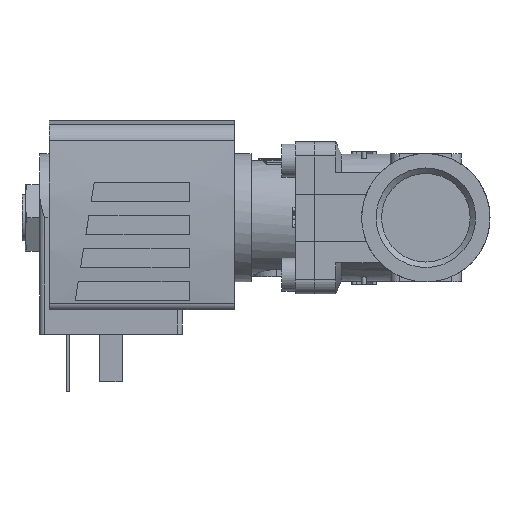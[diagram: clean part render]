
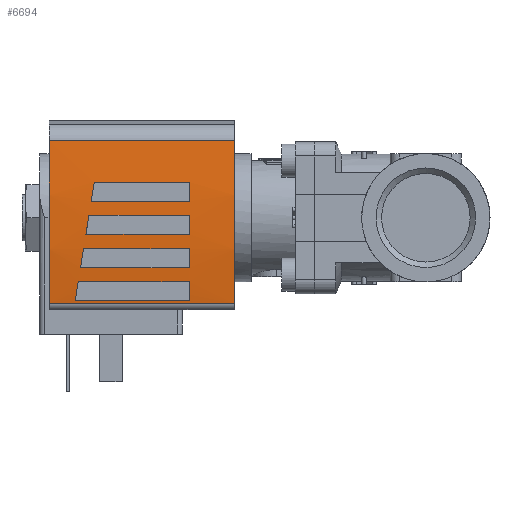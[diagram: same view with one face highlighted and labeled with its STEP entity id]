
A CAD part, left-side view. The second image highlights one B-rep face of the part: STEP entity #6694.
In plain terms, the highlighted cylindrical face has radius 130 mm (diameter 260 mm), a partial arc.
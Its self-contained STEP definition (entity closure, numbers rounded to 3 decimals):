
#89=ELLIPSE('',#7242,131.653,130.);
#90=ELLIPSE('',#7244,131.653,130.);
#91=ELLIPSE('',#7247,131.653,130.);
#92=ELLIPSE('',#7249,131.653,130.);
#228=CYLINDRICAL_SURFACE('',#7241,130.);
#609=LINE('',#10461,#1101);
#611=LINE('',#10481,#1103);
#612=LINE('',#10485,#1104);
#613=LINE('',#10486,#1105);
#614=LINE('',#10491,#1106);
#615=LINE('',#10496,#1107);
#616=LINE('',#10500,#1108);
#617=LINE('',#10504,#1109);
#618=LINE('',#10508,#1110);
#619=LINE('',#10512,#1111);
#1101=VECTOR('',#8607,1000.);
#1103=VECTOR('',#8629,1000.);
#1104=VECTOR('',#8632,1000.);
#1105=VECTOR('',#8633,1000.);
#1106=VECTOR('',#8636,1000.);
#1107=VECTOR('',#8641,1000.);
#1108=VECTOR('',#8644,1000.);
#1109=VECTOR('',#8647,1000.);
#1110=VECTOR('',#8650,1000.);
#1111=VECTOR('',#8653,1000.);
#2431=ORIENTED_EDGE('',*,*,#3441,.F.);
#2432=ORIENTED_EDGE('',*,*,#3442,.F.);
#2433=ORIENTED_EDGE('',*,*,#3443,.F.);
#2434=ORIENTED_EDGE('',*,*,#3444,.F.);
#2435=ORIENTED_EDGE('',*,*,#3445,.F.);
#2436=ORIENTED_EDGE('',*,*,#3446,.F.);
#2437=ORIENTED_EDGE('',*,*,#3447,.F.);
#2438=ORIENTED_EDGE('',*,*,#3448,.F.);
#2439=ORIENTED_EDGE('',*,*,#3449,.T.);
#2440=ORIENTED_EDGE('',*,*,#3450,.F.);
#2441=ORIENTED_EDGE('',*,*,#3435,.F.);
#2442=ORIENTED_EDGE('',*,*,#3432,.T.);
#2443=ORIENTED_EDGE('',*,*,#3451,.F.);
#2444=ORIENTED_EDGE('',*,*,#3452,.F.);
#2445=ORIENTED_EDGE('',*,*,#3453,.F.);
#2446=ORIENTED_EDGE('',*,*,#3454,.F.);
#2447=ORIENTED_EDGE('',*,*,#3455,.F.);
#2448=ORIENTED_EDGE('',*,*,#3456,.F.);
#2449=ORIENTED_EDGE('',*,*,#3457,.F.);
#2450=ORIENTED_EDGE('',*,*,#3458,.F.);
#3432=EDGE_CURVE('',#4036,#4035,#609,.T.);
#3435=EDGE_CURVE('',#4036,#4038,#4307,.T.);
#3441=EDGE_CURVE('',#4042,#4043,#89,.T.);
#3442=EDGE_CURVE('',#4044,#4042,#611,.F.);
#3443=EDGE_CURVE('',#4045,#4044,#4312,.T.);
#3444=EDGE_CURVE('',#4043,#4045,#612,.T.);
#3445=EDGE_CURVE('',#4046,#4047,#613,.T.);
#3446=EDGE_CURVE('',#4048,#4046,#90,.T.);
#3447=EDGE_CURVE('',#4049,#4048,#614,.F.);
#3448=EDGE_CURVE('',#4047,#4049,#4313,.T.);
#3449=EDGE_CURVE('',#4035,#4050,#4314,.T.);
#3450=EDGE_CURVE('',#4038,#4050,#615,.T.);
#3451=EDGE_CURVE('',#4051,#4052,#91,.T.);
#3452=EDGE_CURVE('',#4053,#4051,#616,.F.);
#3453=EDGE_CURVE('',#4054,#4053,#4315,.T.);
#3454=EDGE_CURVE('',#4052,#4054,#617,.T.);
#3455=EDGE_CURVE('',#4055,#4056,#92,.T.);
#3456=EDGE_CURVE('',#4057,#4055,#618,.F.);
#3457=EDGE_CURVE('',#4058,#4057,#4316,.T.);
#3458=EDGE_CURVE('',#4056,#4058,#619,.T.);
#4035=VERTEX_POINT('',#10460);
#4036=VERTEX_POINT('',#10462);
#4038=VERTEX_POINT('',#10468);
#4042=VERTEX_POINT('',#10479);
#4043=VERTEX_POINT('',#10480);
#4044=VERTEX_POINT('',#10482);
#4045=VERTEX_POINT('',#10484);
#4046=VERTEX_POINT('',#10487);
#4047=VERTEX_POINT('',#10488);
#4048=VERTEX_POINT('',#10490);
#4049=VERTEX_POINT('',#10492);
#4050=VERTEX_POINT('',#10495);
#4051=VERTEX_POINT('',#10498);
#4052=VERTEX_POINT('',#10499);
#4053=VERTEX_POINT('',#10501);
#4054=VERTEX_POINT('',#10503);
#4055=VERTEX_POINT('',#10506);
#4056=VERTEX_POINT('',#10507);
#4057=VERTEX_POINT('',#10509);
#4058=VERTEX_POINT('',#10511);
#4307=CIRCLE('',#7236,130.);
#4312=CIRCLE('',#7243,130.);
#4313=CIRCLE('',#7245,130.);
#4314=CIRCLE('',#7246,130.);
#4315=CIRCLE('',#7248,130.);
#4316=CIRCLE('',#7250,130.);
#4611=EDGE_LOOP('',(#2431,#2432,#2433,#2434));
#4612=EDGE_LOOP('',(#2435,#2436,#2437,#2438));
#4613=EDGE_LOOP('',(#2439,#2440,#2441,#2442));
#4614=EDGE_LOOP('',(#2443,#2444,#2445,#2446));
#4615=EDGE_LOOP('',(#2447,#2448,#2449,#2450));
#4984=FACE_BOUND('',#4611,.T.);
#4985=FACE_BOUND('',#4612,.T.);
#4986=FACE_BOUND('',#4613,.T.);
#4987=FACE_BOUND('',#4614,.T.);
#4988=FACE_BOUND('',#4615,.T.);
#6694=ADVANCED_FACE('',(#4984,#4985,#4986,#4987,#4988),#228,.T.);
#7236=AXIS2_PLACEMENT_3D('',#10467,#8614,#8615);
#7241=AXIS2_PLACEMENT_3D('',#10477,#8625,#8626);
#7242=AXIS2_PLACEMENT_3D('',#10478,#8627,#8628);
#7243=AXIS2_PLACEMENT_3D('',#10483,#8630,#8631);
#7244=AXIS2_PLACEMENT_3D('',#10489,#8634,#8635);
#7245=AXIS2_PLACEMENT_3D('',#10493,#8637,#8638);
#7246=AXIS2_PLACEMENT_3D('',#10494,#8639,#8640);
#7247=AXIS2_PLACEMENT_3D('',#10497,#8642,#8643);
#7248=AXIS2_PLACEMENT_3D('',#10502,#8645,#8646);
#7249=AXIS2_PLACEMENT_3D('',#10505,#8648,#8649);
#7250=AXIS2_PLACEMENT_3D('',#10510,#8651,#8652);
#8607=DIRECTION('',(0.,-1.,0.));
#8614=DIRECTION('',(0.,1.,0.));
#8615=DIRECTION('',(1.,0.,0.));
#8625=DIRECTION('',(0.,-1.,0.));
#8626=DIRECTION('',(0.,0.,-1.));
#8627=DIRECTION('',(-0.158,-0.987,0.));
#8628=DIRECTION('',(0.987,-0.158,0.));
#8629=DIRECTION('',(0.,-1.,0.));
#8630=DIRECTION('',(0.,1.,0.));
#8631=DIRECTION('',(0.,0.,1.));
#8632=DIRECTION('',(0.,-1.,0.));
#8633=DIRECTION('',(0.,-1.,0.));
#8634=DIRECTION('',(-0.158,-0.987,0.));
#8635=DIRECTION('',(0.987,-0.158,0.));
#8636=DIRECTION('',(0.,-1.,0.));
#8637=DIRECTION('',(0.,1.,0.));
#8638=DIRECTION('',(0.,0.,1.));
#8639=DIRECTION('',(0.,1.,0.));
#8640=DIRECTION('',(1.,0.,0.));
#8641=DIRECTION('',(0.,-1.,0.));
#8642=DIRECTION('',(-0.158,-0.987,0.));
#8643=DIRECTION('',(0.987,-0.158,0.));
#8644=DIRECTION('',(0.,-1.,0.));
#8645=DIRECTION('',(0.,1.,0.));
#8646=DIRECTION('',(0.,0.,1.));
#8647=DIRECTION('',(0.,-1.,0.));
#8648=DIRECTION('',(-0.158,-0.987,0.));
#8649=DIRECTION('',(0.987,-0.158,0.));
#8650=DIRECTION('',(0.,-1.,0.));
#8651=DIRECTION('',(0.,1.,0.));
#8652=DIRECTION('',(0.,0.,1.));
#8653=DIRECTION('',(0.,-1.,0.));
#10460=CARTESIAN_POINT('',(-18.071,-26.,14.738));
#10461=CARTESIAN_POINT('',(-18.071,13.,14.738));
#10462=CARTESIAN_POINT('',(-18.071,13.,14.738));
#10467=CARTESIAN_POINT('',(0.,13.,-114.));
#10468=CARTESIAN_POINT('',(16.195,13.,14.987));
#10477=CARTESIAN_POINT('',(0.,13.,-114.));
#10478=CARTESIAN_POINT('',(0.,4.7,-114.));
#10479=CARTESIAN_POINT('',(0.5,4.62,15.999));
#10480=CARTESIAN_POINT('',(-3.5,5.26,15.953));
#10481=CARTESIAN_POINT('',(0.5,13.,15.999));
#10482=CARTESIAN_POINT('',(0.5,-16.5,15.999));
#10483=CARTESIAN_POINT('',(0.,-16.5,-114.));
#10484=CARTESIAN_POINT('',(-3.5,-16.5,15.953));
#10485=CARTESIAN_POINT('',(-3.5,13.,15.953));
#10486=CARTESIAN_POINT('',(-17.5,13.,14.817));
#10487=CARTESIAN_POINT('',(-17.5,7.5,14.817));
#10488=CARTESIAN_POINT('',(-17.5,-16.5,14.817));
#10489=CARTESIAN_POINT('',(0.,4.7,-114.));
#10490=CARTESIAN_POINT('',(-13.5,6.86,15.297));
#10491=CARTESIAN_POINT('',(-13.5,13.,15.297));
#10492=CARTESIAN_POINT('',(-13.5,-16.5,15.297));
#10493=CARTESIAN_POINT('',(0.,-16.5,-114.));
#10494=CARTESIAN_POINT('',(0.,-26.,-114.));
#10495=CARTESIAN_POINT('',(16.195,-26.,14.987));
#10496=CARTESIAN_POINT('',(16.195,13.,14.987));
#10497=CARTESIAN_POINT('',(0.,4.7,-114.));
#10498=CARTESIAN_POINT('',(-6.5,5.74,15.837));
#10499=CARTESIAN_POINT('',(-10.5,6.38,15.575));
#10500=CARTESIAN_POINT('',(-6.5,13.,15.837));
#10501=CARTESIAN_POINT('',(-6.5,-16.5,15.837));
#10502=CARTESIAN_POINT('',(0.,-16.5,-114.));
#10503=CARTESIAN_POINT('',(-10.5,-16.5,15.575));
#10504=CARTESIAN_POINT('',(-10.5,13.,15.575));
#10505=CARTESIAN_POINT('',(0.,4.7,-114.));
#10506=CARTESIAN_POINT('',(7.5,3.5,15.783));
#10507=CARTESIAN_POINT('',(3.5,4.14,15.953));
#10508=CARTESIAN_POINT('',(7.5,13.,15.783));
#10509=CARTESIAN_POINT('',(7.5,-16.5,15.783));
#10510=CARTESIAN_POINT('',(0.,-16.5,-114.));
#10511=CARTESIAN_POINT('',(3.5,-16.5,15.953));
#10512=CARTESIAN_POINT('',(3.5,13.,15.953));
